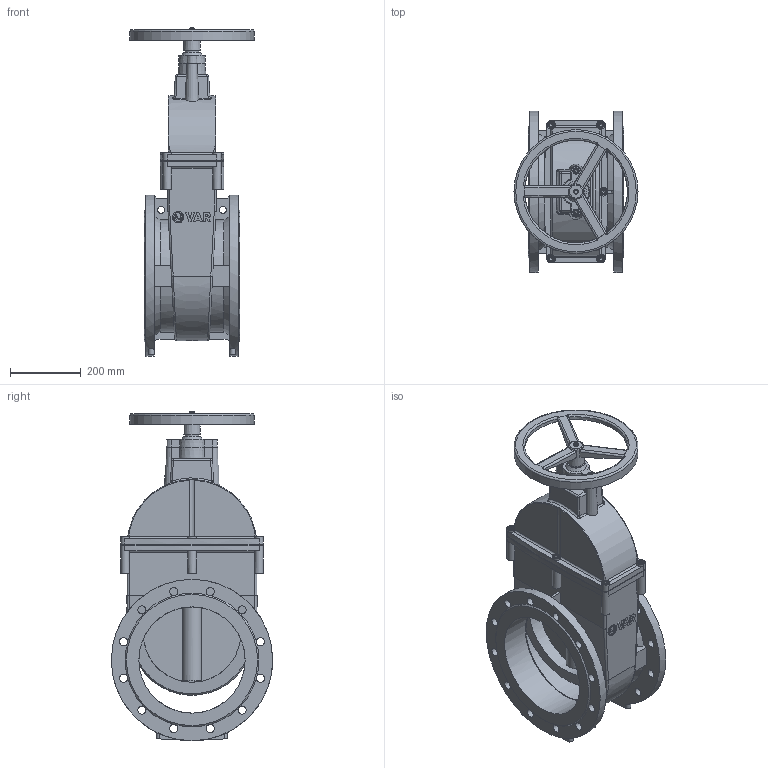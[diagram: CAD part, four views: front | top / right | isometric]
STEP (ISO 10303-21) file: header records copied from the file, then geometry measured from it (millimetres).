
FILE_DESCRIPTION(('STEP AP242'), '1');
FILE_NAME('青溻桄赅', '', ('UNSPECIFIED'), ('UNSPECIFIED'), 'C3D Converter', 'C3D Toolkit', '');
FILE_SCHEMA(('AP242_MANAGED_MODEL_BASED_3D_ENGINEERING_MIM_LF { 1 0 10303 442 1 1 4 }'));
Length unit declared in the file: millimetre
Assembly tree (17 placements, depth 2):
  (unnamed)
    (unnamed)
    (unnamed)
    (unnamed)
    (unnamed)
    (unnamed)  x2
    (unnamed)
    (unnamed)
    (unnamed)  x6
    (unnamed)  x2
    (unnamed)
Bounding box: 350 x 455 x 929.1 mm (x, y, z)
Volume: 17509037.1 mm3; surface area: 2848701.6 mm2
Topology: 20 solids, 20 shells, 969 faces, 2493 edges, 1594 vertices
Faces by surface type: plane 455, cylinder 202, extrusion 157, cone 69, bspline 65, torus 21
Full cylindrical faces by diameter (mm): 6 x3, 10 x8, 12 x30, 18 x16, 19.387 x2, 23 x24, 32.4 x1, 39 x7, 55.333 x4, 275.5 x2, 290 x1, 300 x5, 339.2 x4, 340 x1, 349 x1, 350 x1, 455 x2
Entity records: 45493 total; most frequent: CARTESIAN_POINT 23427, ORIENTED_EDGE 4086, DIRECTION 3204, EDGE_CURVE 2043, VERTEX_POINT 1401, EDGE_LOOP 1090, AXIS2_PLACEMENT_3D 1068, VECTOR 1068
